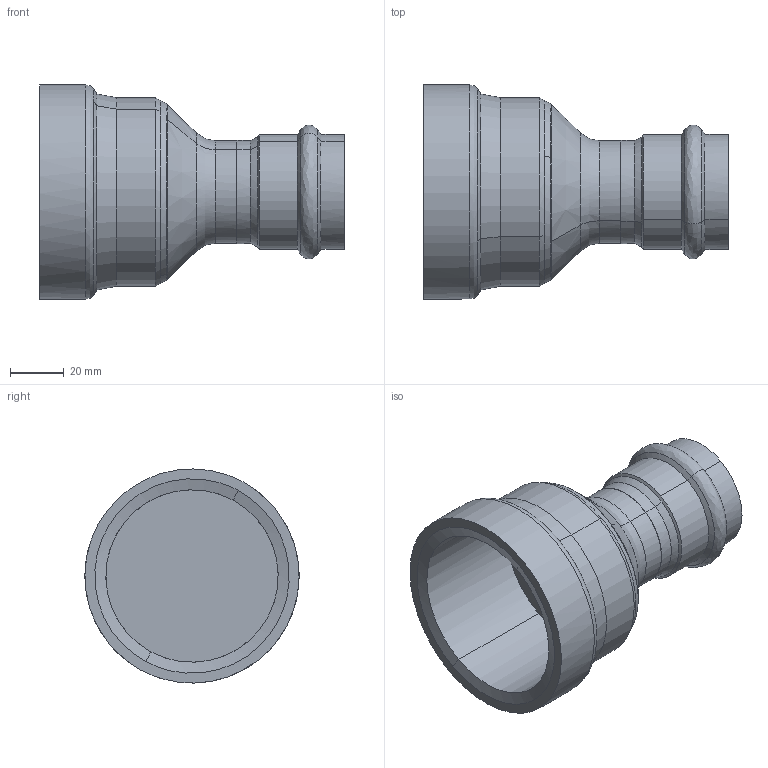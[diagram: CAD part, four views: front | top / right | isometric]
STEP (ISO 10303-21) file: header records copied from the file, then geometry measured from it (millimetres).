
FILE_DESCRIPTION(('STEP AP214'),'1');
FILE_NAME('pim0004396.stp','2015-04-30T11:39:57',('Cad-Pim'),('TransMagic, Inc.'),'TMR11sp0','TransMagic R11',' ');
FILE_SCHEMA(('AUTOMOTIVE_DESIGN'));
Length unit declared in the file: millimetre
Products named in the file (1): pim0004396
Bounding box: 113.19 x 79.49 x 79.49 mm (x, y, z)
Volume: 132754.2 mm3; surface area: 40618 mm2
Topology: 1 solids, 1 shells, 48 faces, 131 edges, 86 vertices
Faces by surface type: cone 18, cylinder 16, bspline 14
Entity records: 2394 total; most frequent: CARTESIAN_POINT 997, ORIENTED_EDGE 258, DIRECTION 162, EDGE_CURVE 129, VERTEX_POINT 86, AXIS2_PLACEMENT_3D 64, EDGE_LOOP 51, STYLED_ITEM 49
